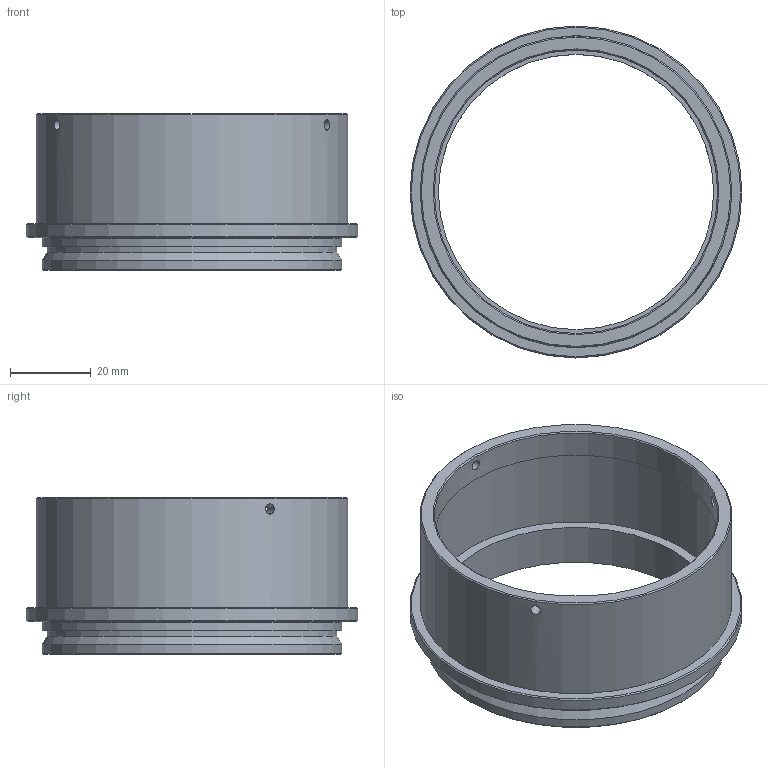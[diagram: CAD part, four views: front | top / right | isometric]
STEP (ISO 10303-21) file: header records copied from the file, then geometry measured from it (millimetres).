
FILE_DESCRIPTION (( 'STEP AP203' ), '1' );
FILE_NAME ('3d_ML-LS9040-EXR-V70V74_a003.STEP', '2020-09-11T02:36:25', ( '' ), ( '' ), 'SwSTEP 2.0', 'SolidWorks 2017', '' );
FILE_SCHEMA (( 'CONFIG_CONTROL_DESIGN' ));
Length unit declared in the file: millimetre
Products named in the file (1): 3d_ML-LS9040-EXR-V70V74_a003
Bounding box: 82 x 82 x 38.7 mm (x, y, z)
Volume: 25010.3 mm3; surface area: 22121.3 mm2
Topology: 1 solids, 1 shells, 25 faces, 49 edges, 31 vertices
Faces by surface type: cylinder 11, plane 7, cone 6, torus 1
Full cylindrical faces by diameter (mm): 2.5 x3, 68 x1, 70 x1, 71.6 x1, 73 x1, 74 x2, 77 x1, 82 x1
Entity records: 831 total; most frequent: CARTESIAN_POINT 304, DIRECTION 96, ORIENTED_EDGE 56, EDGE_LOOP 56, AXIS2_PLACEMENT_3D 48, FACE_OUTER_BOUND 37, VERTEX_POINT 28, EDGE_CURVE 28
